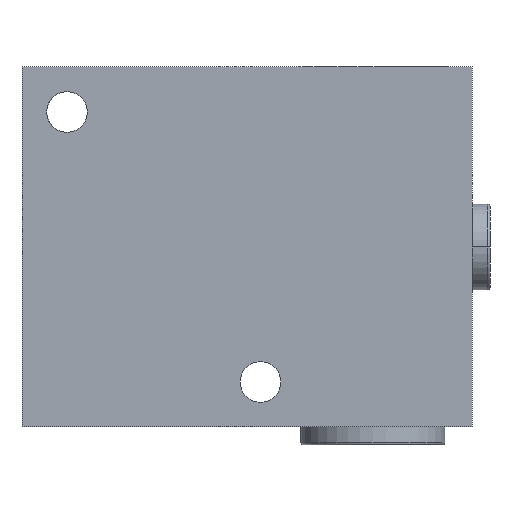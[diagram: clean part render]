
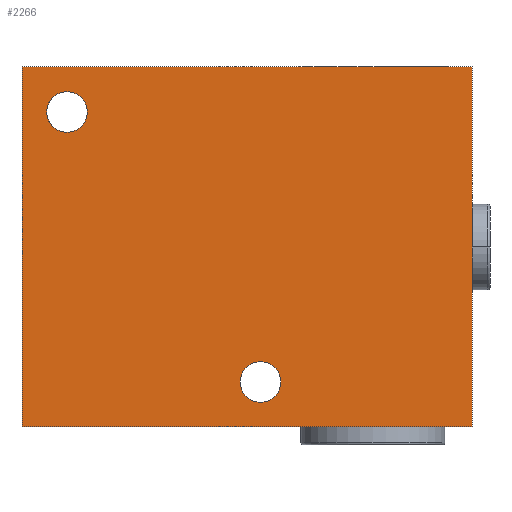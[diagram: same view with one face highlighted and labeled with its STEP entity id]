
A CAD part, front view. The second image highlights one B-rep face of the part: STEP entity #2266.
In plain terms, the highlighted planar face has unit normal (0, -1, 0) as drawn and (0, 1, 0) by its records, which use the part's own axes.
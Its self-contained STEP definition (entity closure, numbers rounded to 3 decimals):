
#65=DIRECTION('',(-1.,0.,0.));
#66=VECTOR('',#65,80.);
#67=CARTESIAN_POINT('',(40.,25.,0.));
#68=LINE('',#67,#66);
#166=DIRECTION('',(0.,0.,1.));
#167=VECTOR('',#166,100.);
#168=CARTESIAN_POINT('',(-40.,25.,0.));
#169=LINE('',#168,#167);
#189=DIRECTION('',(0.,0.,1.));
#190=VECTOR('',#189,100.);
#191=CARTESIAN_POINT('',(40.,25.,0.));
#192=LINE('',#191,#190);
#196=CARTESIAN_POINT('',(-30.,25.,90.));
#197=DIRECTION('',(0.,-1.,0.));
#198=DIRECTION('',(1.,0.,0.));
#199=AXIS2_PLACEMENT_3D('',#196,#197,#198);
#204=CARTESIAN_POINT('',(-30.,25.,90.));
#205=DIRECTION('',(0.,-1.,0.));
#206=DIRECTION('',(-1.,0.,0.));
#207=AXIS2_PLACEMENT_3D('',#204,#205,#206);
#212=CARTESIAN_POINT('',(30.,25.,47.));
#213=DIRECTION('',(0.,-1.,0.));
#214=DIRECTION('',(1.,0.,0.));
#215=AXIS2_PLACEMENT_3D('',#212,#213,#214);
#220=CARTESIAN_POINT('',(30.,25.,47.));
#221=DIRECTION('',(0.,-1.,0.));
#222=DIRECTION('',(-1.,0.,0.));
#223=AXIS2_PLACEMENT_3D('',#220,#221,#222);
#281=DIRECTION('',(-1.,0.,0.));
#282=VECTOR('',#281,80.);
#283=CARTESIAN_POINT('',(40.,25.,100.));
#284=LINE('',#283,#282);
#1918=CARTESIAN_POINT('',(40.,25.,0.));
#1919=VERTEX_POINT('',#1918);
#1920=CARTESIAN_POINT('',(-40.,25.,0.));
#1921=VERTEX_POINT('',#1920);
#1926=CARTESIAN_POINT('',(40.,25.,100.));
#1927=VERTEX_POINT('',#1926);
#1928=CARTESIAN_POINT('',(-40.,25.,100.));
#1929=VERTEX_POINT('',#1928);
#2042=CARTESIAN_POINT('',(-25.5,25.,90.));
#2043=CARTESIAN_POINT('',(-34.5,25.,90.));
#2044=VERTEX_POINT('',#2042);
#2045=VERTEX_POINT('',#2043);
#2050=CARTESIAN_POINT('',(34.5,25.,47.));
#2051=CARTESIAN_POINT('',(25.5,25.,47.));
#2052=VERTEX_POINT('',#2050);
#2053=VERTEX_POINT('',#2051);
#2241=CARTESIAN_POINT('',(40.,25.,0.));
#2242=DIRECTION('',(0.,1.,0.));
#2243=DIRECTION('',(-1.,0.,0.));
#2244=AXIS2_PLACEMENT_3D('',#2241,#2242,#2243);
#2245=PLANE('',#2244);
#2246=ORIENTED_EDGE('',*,*,#2133,.F.);
#2248=ORIENTED_EDGE('',*,*,#2247,.T.);
#2250=ORIENTED_EDGE('',*,*,#2249,.T.);
#2251=ORIENTED_EDGE('',*,*,#2215,.F.);
#2252=EDGE_LOOP('',(#2246,#2248,#2250,#2251));
#2253=FACE_OUTER_BOUND('',#2252,.F.);
#2255=ORIENTED_EDGE('',*,*,#2254,.F.);
#2257=ORIENTED_EDGE('',*,*,#2256,.F.);
#2258=EDGE_LOOP('',(#2255,#2257));
#2259=FACE_BOUND('',#2258,.F.);
#2261=ORIENTED_EDGE('',*,*,#2260,.F.);
#2263=ORIENTED_EDGE('',*,*,#2262,.F.);
#2264=EDGE_LOOP('',(#2261,#2263));
#2265=FACE_BOUND('',#2264,.F.);
#200=CIRCLE('',#199,4.5);
#208=CIRCLE('',#207,4.5);
#216=CIRCLE('',#215,4.5);
#224=CIRCLE('',#223,4.5);
#2133=EDGE_CURVE('',#1919,#1921,#68,.T.);
#2215=EDGE_CURVE('',#1921,#1929,#169,.T.);
#2247=EDGE_CURVE('',#1919,#1927,#192,.T.);
#2249=EDGE_CURVE('',#1927,#1929,#284,.T.);
#2254=EDGE_CURVE('',#2044,#2045,#200,.T.);
#2256=EDGE_CURVE('',#2045,#2044,#208,.T.);
#2260=EDGE_CURVE('',#2052,#2053,#216,.T.);
#2262=EDGE_CURVE('',#2053,#2052,#224,.T.);
#2266=ADVANCED_FACE('',(#2253,#2259,#2265),#2245,.T.);
